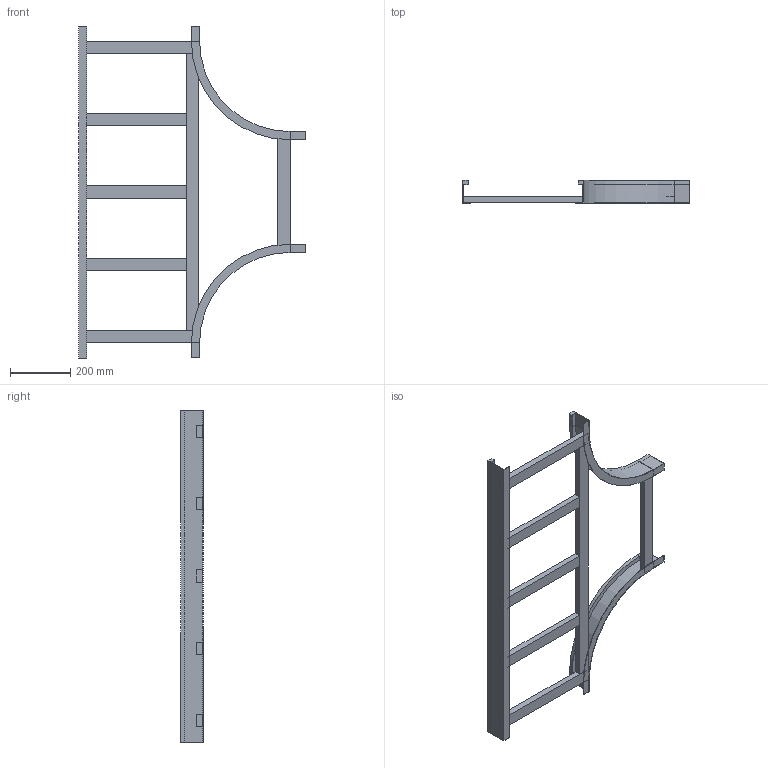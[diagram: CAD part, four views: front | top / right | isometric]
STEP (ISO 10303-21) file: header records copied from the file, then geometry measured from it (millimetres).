
FILE_DESCRIPTION (( 'STEP AP214' ), '1' );
FILE_NAME ('B2_15B3C400.step', '2025-02-21T15:53:46', ( '' ), ( '' ), 'SwSTEP 2.0', 'SolidWorks 2023', '' );
FILE_SCHEMA (( 'AUTOMOTIVE_DESIGN' ));
Length unit declared in the file: millimetre
Products named in the file (6): B2_LONGH.RETT_H75_R300+400; B2_TRAVERSINO_LONG._R300+400; TRAVERSINO_400; B2_LONGH.INTERNO 90°_H75_R300; B2_15B3C400; TRAVERSINO_INTERMEDIO_R300+400
Assembly tree (10 placements, depth 2):
  B2_15B3C400
    B2_LONGH.INTERNO 90°_H75_R300  x2
    B2_LONGH.RETT_H75_R300+400
    TRAVERSINO_400  x3
    B2_TRAVERSINO_LONG._R300+400
    TRAVERSINO_INTERMEDIO_R300+400  x3
Bounding box: 750 x 75 x 1100 mm (x, y, z)
Volume: 3458367 mm3; surface area: 931437.3 mm2
Topology: 10 solids, 10 shells, 104 faces, 220 edges, 136 vertices
Faces by surface type: plane 96, cylinder 8
Entity records: 1647 total; most frequent: DIRECTION 258, CARTESIAN_POINT 255, ORIENTED_EDGE 232, EDGE_CURVE 116, VECTOR 108, LINE 108, AXIS2_PLACEMENT_3D 75, VERTEX_POINT 72
